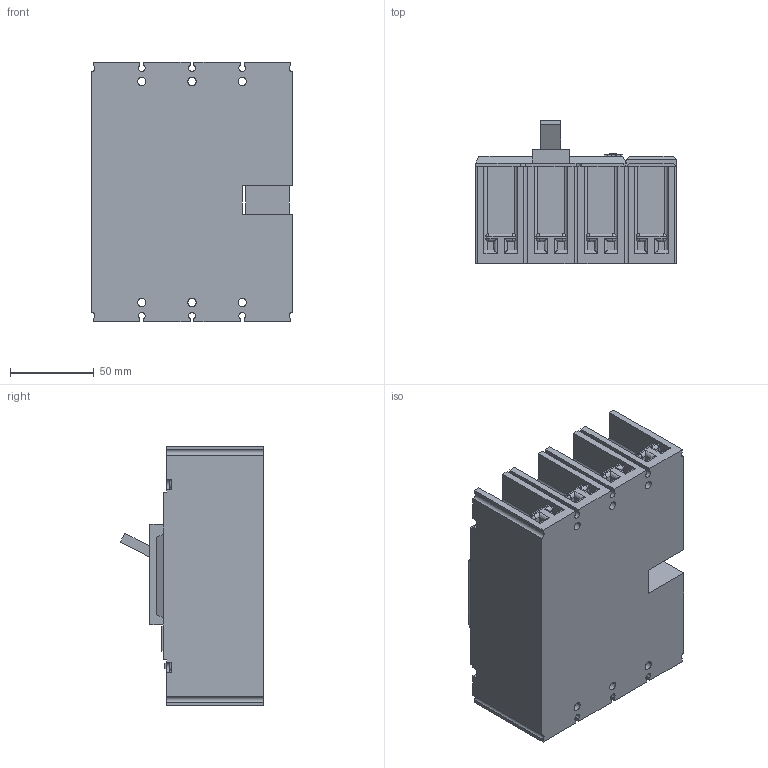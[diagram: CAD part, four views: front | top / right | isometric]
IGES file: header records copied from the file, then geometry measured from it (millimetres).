
Start section:  PTC IGES file: 8-metasol-elcb-125af-4p.igs
Global section: file name: 8-metasol-elcb-125af-4p.igs; native system: Pro/ENGINEER by Parametric Technology Corporation; preprocessor: 2010280; author: mgkimb; organization: Unknown; date: 20131029.143217; units: millimetre
Bounding box: 120 x 85.7 x 155 mm (x, y, z)
Surface area: 111059.8 mm2 (no closed solid volume)
Topology: 0 solids, 0 shells, 1125 faces, 5740 edges, 5740 vertices
Faces by surface type: bspline 708, revolution 417
